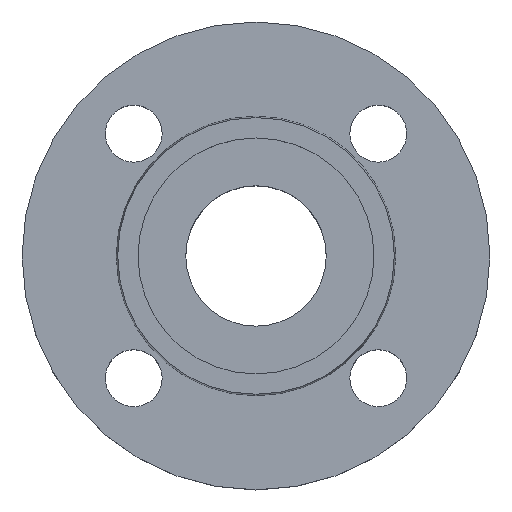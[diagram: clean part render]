
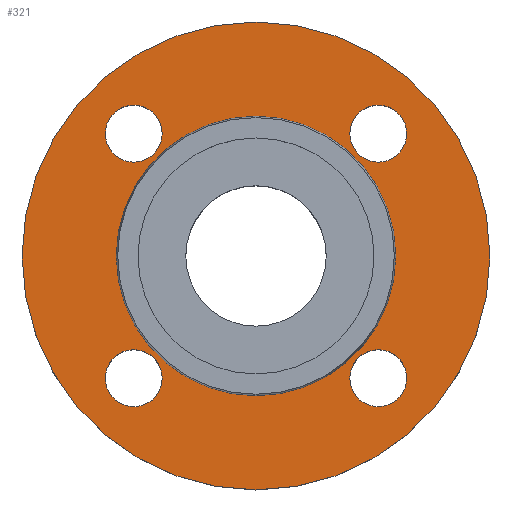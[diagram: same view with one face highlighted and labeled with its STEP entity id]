
A CAD part, top view. The second image highlights one B-rep face of the part: STEP entity #321.
In plain terms, the highlighted planar face has unit normal (0, 0, 1).
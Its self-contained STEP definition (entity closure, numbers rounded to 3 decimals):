
#16 = EDGE_CURVE ( 'NONE', #674, #503, #359, .T. ) ;
#55 = AXIS2_PLACEMENT_3D ( 'NONE', #164, #163, #162 ) ;
#65 = CARTESIAN_POINT ( 'NONE',  ( 57.5, 0., -2. ) ) ;
#70 = DIRECTION ( 'NONE',  ( 1., 0., 0. ) ) ;
#71 = DIRECTION ( 'NONE',  ( 0., 0., -1. ) ) ;
#73 = CARTESIAN_POINT ( 'NONE',  ( 30.052, 30.052, -2. ) ) ;
#74 = AXIS2_PLACEMENT_3D ( 'NONE', #369, #371, #372 ) ;
#77 = CARTESIAN_POINT ( 'NONE',  ( -23.052, -30.052, -2. ) ) ;
#78 = CARTESIAN_POINT ( 'NONE',  ( 37.052, -30.052, -2. ) ) ;
#79 = CIRCLE ( 'NONE', #101, 57.5 ) ;
#101 = AXIS2_PLACEMENT_3D ( 'NONE', #128, #125, #124 ) ;
#106 = CIRCLE ( 'NONE', #107, 7. ) ;
#107 = AXIS2_PLACEMENT_3D ( 'NONE', #122, #118, #116 ) ;
#114 = CARTESIAN_POINT ( 'NONE',  ( -57.5, 0., -2. ) ) ;
#116 = DIRECTION ( 'NONE',  ( 1., 0., 0. ) ) ;
#118 = DIRECTION ( 'NONE',  ( 0., 0., -1. ) ) ;
#122 = CARTESIAN_POINT ( 'NONE',  ( 30.052, -30.052, -2. ) ) ;
#124 = DIRECTION ( 'NONE',  ( -1., 0., 0. ) ) ;
#125 = DIRECTION ( 'NONE',  ( 0., 0., -1. ) ) ;
#128 = CARTESIAN_POINT ( 'NONE',  ( 0., 0., -2. ) ) ;
#131 = CARTESIAN_POINT ( 'NONE',  ( -23.052, 30.052, -2. ) ) ;
#150 = CARTESIAN_POINT ( 'NONE',  ( 23.052, 30.052, -2. ) ) ;
#151 = CIRCLE ( 'NONE', #175, 7. ) ;
#159 = CARTESIAN_POINT ( 'NONE',  ( 34.353, 0., -2. ) ) ;
#160 = CARTESIAN_POINT ( 'NONE',  ( 23.052, -30.052, -2. ) ) ;
#162 = DIRECTION ( 'NONE',  ( -1., 0., 0. ) ) ;
#163 = DIRECTION ( 'NONE',  ( 0., 0., -1. ) ) ;
#164 = CARTESIAN_POINT ( 'NONE',  ( 0., 0., -2. ) ) ;
#166 = AXIS2_PLACEMENT_3D ( 'NONE', #383, #384, #386 ) ;
#172 = DIRECTION ( 'NONE',  ( 0., 0., -1. ) ) ;
#173 = CARTESIAN_POINT ( 'NONE',  ( -34.353, 0., -2. ) ) ;
#175 = AXIS2_PLACEMENT_3D ( 'NONE', #191, #172, #177 ) ;
#177 = DIRECTION ( 'NONE',  ( 1., 0., 0. ) ) ;
#178 = CIRCLE ( 'NONE', #318, 7. ) ;
#191 = CARTESIAN_POINT ( 'NONE',  ( 30.052, 30.052, -2. ) ) ;
#199 = CARTESIAN_POINT ( 'NONE',  ( -37.052, 30.052, -2. ) ) ;
#208 = CIRCLE ( 'NONE', #55, 57.5 ) ;
#229 = DIRECTION ( 'NONE',  ( 0., 0., -1. ) ) ;
#232 = DIRECTION ( 'NONE',  ( 1., 0., 0. ) ) ;
#237 = CARTESIAN_POINT ( 'NONE',  ( 37.052, 30.052, -2. ) ) ;
#239 = AXIS2_PLACEMENT_3D ( 'NONE', #476, #229, #232 ) ;
#255 = EDGE_CURVE ( 'NONE', #491, #676, #178, .T. ) ;
#275 = CIRCLE ( 'NONE', #325, 34.353 ) ;
#280 = CARTESIAN_POINT ( 'NONE',  ( -37.052, -30.052, -2. ) ) ;
#282 = CIRCLE ( 'NONE', #295, 7. ) ;
#291 = AXIS2_PLACEMENT_3D ( 'NONE', #408, #409, #410 ) ;
#295 = AXIS2_PLACEMENT_3D ( 'NONE', #73, #71, #70 ) ;
#299 = CIRCLE ( 'NONE', #74, 7. ) ;
#301 = CIRCLE ( 'NONE', #291, 34.353 ) ;
#305 = EDGE_CURVE ( 'NONE', #460, #598, #299, .T. ) ;
#310 = EDGE_CURVE ( 'NONE', #504, #493, #275, .T. ) ;
#316 = EDGE_CURVE ( 'NONE', #676, #491, #324, .T. ) ;
#318 = AXIS2_PLACEMENT_3D ( 'NONE', #775, #779, #780 ) ;
#321 = ADVANCED_FACE ( 'NONE', ( #393, #394, #396, #397, #398, #399 ), #400, .T. ) ;
#324 = CIRCLE ( 'NONE', #166, 7. ) ;
#325 = AXIS2_PLACEMENT_3D ( 'NONE', #378, #379, #380 ) ;
#326 = EDGE_CURVE ( 'NONE', #493, #504, #301, .T. ) ;
#350 = CIRCLE ( 'NONE', #239, 7. ) ;
#358 = AXIS2_PLACEMENT_3D ( 'NONE', #694, #695, #696 ) ;
#359 = CIRCLE ( 'NONE', #358, 7. ) ;
#369 = CARTESIAN_POINT ( 'NONE',  ( -30.052, 30.052, -2. ) ) ;
#371 = DIRECTION ( 'NONE',  ( 0., 0., -1. ) ) ;
#372 = DIRECTION ( 'NONE',  ( 1., 0., 0. ) ) ;
#378 = CARTESIAN_POINT ( 'NONE',  ( 0., 0., -2. ) ) ;
#379 = DIRECTION ( 'NONE',  ( 0., 0., -1. ) ) ;
#380 = DIRECTION ( 'NONE',  ( -1., 0., 0. ) ) ;
#383 = CARTESIAN_POINT ( 'NONE',  ( -30.052, -30.052, -2. ) ) ;
#384 = DIRECTION ( 'NONE',  ( 0., 0., -1. ) ) ;
#386 = DIRECTION ( 'NONE',  ( 1., 0., 0. ) ) ;
#393 = FACE_BOUND ( 'NONE', #663, .T. ) ;
#394 = FACE_BOUND ( 'NONE', #505, .T. ) ;
#396 = FACE_BOUND ( 'NONE', #667, .T. ) ;
#397 = FACE_BOUND ( 'NONE', #614, .T. ) ;
#398 = FACE_BOUND ( 'NONE', #654, .T. ) ;
#399 = FACE_OUTER_BOUND ( 'NONE', #673, .T. ) ;
#400 = PLANE ( 'NONE',  #452 ) ;
#401 = CARTESIAN_POINT ( 'NONE',  ( 34.353, 0., -2. ) ) ;
#403 = DIRECTION ( 'NONE',  ( 0., 0., 1. ) ) ;
#404 = DIRECTION ( 'NONE',  ( 1., 0., 0. ) ) ;
#408 = CARTESIAN_POINT ( 'NONE',  ( 0., 0., -2. ) ) ;
#409 = DIRECTION ( 'NONE',  ( 0., 0., -1. ) ) ;
#410 = DIRECTION ( 'NONE',  ( -1., 0., 0. ) ) ;
#450 = EDGE_CURVE ( 'NONE', #598, #460, #350, .T. ) ;
#452 = AXIS2_PLACEMENT_3D ( 'NONE', #401, #403, #404 ) ;
#460 = VERTEX_POINT ( 'NONE', #199 ) ;
#476 = CARTESIAN_POINT ( 'NONE',  ( -30.052, 30.052, -2. ) ) ;
#491 = VERTEX_POINT ( 'NONE', #280 ) ;
#492 = EDGE_CURVE ( 'NONE', #495, #521, #151, .T. ) ;
#493 = VERTEX_POINT ( 'NONE', #173 ) ;
#495 = VERTEX_POINT ( 'NONE', #237 ) ;
#500 = EDGE_CURVE ( 'NONE', #641, #692, #208, .T. ) ;
#503 = VERTEX_POINT ( 'NONE', #160 ) ;
#504 = VERTEX_POINT ( 'NONE', #159 ) ;
#505 = EDGE_LOOP ( 'NONE', ( #570, #571 ) ) ;
#521 = VERTEX_POINT ( 'NONE', #150 ) ;
#568 = ORIENTED_EDGE ( 'NONE', *, *, #16, .T. ) ;
#569 = ORIENTED_EDGE ( 'NONE', *, *, #636, .T. ) ;
#570 = ORIENTED_EDGE ( 'NONE', *, *, #316, .T. ) ;
#571 = ORIENTED_EDGE ( 'NONE', *, *, #255, .T. ) ;
#574 = ORIENTED_EDGE ( 'NONE', *, *, #450, .T. ) ;
#575 = ORIENTED_EDGE ( 'NONE', *, *, #305, .T. ) ;
#576 = ORIENTED_EDGE ( 'NONE', *, *, #492, .T. ) ;
#577 = ORIENTED_EDGE ( 'NONE', *, *, #686, .T. ) ;
#578 = ORIENTED_EDGE ( 'NONE', *, *, #326, .T. ) ;
#581 = ORIENTED_EDGE ( 'NONE', *, *, #310, .T. ) ;
#582 = ORIENTED_EDGE ( 'NONE', *, *, #605, .F. ) ;
#583 = ORIENTED_EDGE ( 'NONE', *, *, #500, .F. ) ;
#598 = VERTEX_POINT ( 'NONE', #131 ) ;
#605 = EDGE_CURVE ( 'NONE', #692, #641, #79, .T. ) ;
#614 = EDGE_LOOP ( 'NONE', ( #576, #577 ) ) ;
#636 = EDGE_CURVE ( 'NONE', #503, #674, #106, .T. ) ;
#641 = VERTEX_POINT ( 'NONE', #114 ) ;
#654 = EDGE_LOOP ( 'NONE', ( #578, #581 ) ) ;
#663 = EDGE_LOOP ( 'NONE', ( #568, #569 ) ) ;
#667 = EDGE_LOOP ( 'NONE', ( #574, #575 ) ) ;
#673 = EDGE_LOOP ( 'NONE', ( #582, #583 ) ) ;
#674 = VERTEX_POINT ( 'NONE', #78 ) ;
#676 = VERTEX_POINT ( 'NONE', #77 ) ;
#686 = EDGE_CURVE ( 'NONE', #521, #495, #282, .T. ) ;
#692 = VERTEX_POINT ( 'NONE', #65 ) ;
#694 = CARTESIAN_POINT ( 'NONE',  ( 30.052, -30.052, -2. ) ) ;
#695 = DIRECTION ( 'NONE',  ( 0., 0., -1. ) ) ;
#696 = DIRECTION ( 'NONE',  ( 1., 0., 0. ) ) ;
#775 = CARTESIAN_POINT ( 'NONE',  ( -30.052, -30.052, -2. ) ) ;
#779 = DIRECTION ( 'NONE',  ( 0., 0., -1. ) ) ;
#780 = DIRECTION ( 'NONE',  ( 1., 0., 0. ) ) ;
